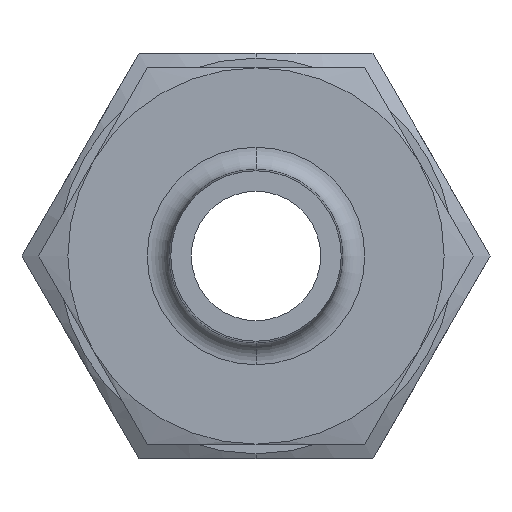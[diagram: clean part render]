
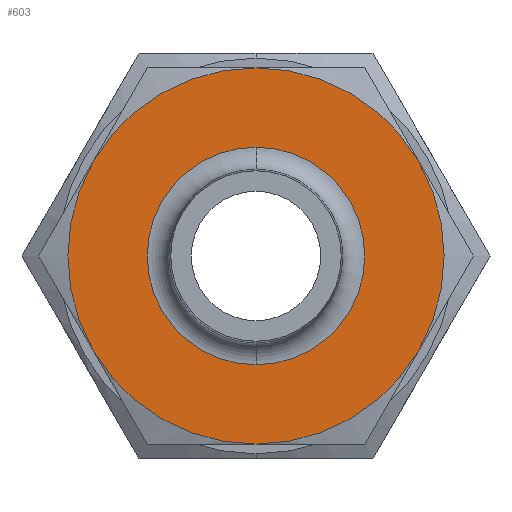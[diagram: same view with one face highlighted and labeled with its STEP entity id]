
A CAD part, left-side view. The second image highlights one B-rep face of the part: STEP entity #603.
In plain terms, the highlighted planar face has unit normal (-1, 0, 0).
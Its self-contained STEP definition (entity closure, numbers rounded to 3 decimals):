
#167 = VERTEX_POINT ( 'NONE', #810 ) ;
#182 = VERTEX_POINT ( 'NONE', #913 ) ;
#194 = VERTEX_POINT ( 'NONE', #1238 ) ;
#220 = EDGE_CURVE ( 'NONE', #221, #222, #1206, .T. ) ;
#221 = VERTEX_POINT ( 'NONE', #1197 ) ;
#222 = VERTEX_POINT ( 'NONE', #1196 ) ;
#262 = ORIENTED_EDGE ( 'NONE', *, *, #263, .F. ) ;
#263 = EDGE_CURVE ( 'NONE', #194, #593, #1033, .T. ) ;
#264 = ORIENTED_EDGE ( 'NONE', *, *, #265, .F. ) ;
#265 = EDGE_CURVE ( 'NONE', #182, #194, #1066, .T. ) ;
#266 = ORIENTED_EDGE ( 'NONE', *, *, #267, .F. ) ;
#267 = EDGE_CURVE ( 'NONE', #318, #182, #1062, .T. ) ;
#268 = ORIENTED_EDGE ( 'NONE', *, *, #269, .F. ) ;
#269 = EDGE_CURVE ( 'NONE', #462, #318, #1085, .T. ) ;
#270 = ORIENTED_EDGE ( 'NONE', *, *, #271, .T. ) ;
#271 = EDGE_CURVE ( 'NONE', #462, #167, #1080, .T. ) ;
#318 = VERTEX_POINT ( 'NONE', #1458 ) ;
#462 = VERTEX_POINT ( 'NONE', #1681 ) ;
#539 = EDGE_LOOP ( 'NONE', ( #262, #264, #266, #268, #270, #607 ) ) ;
#543 = ORIENTED_EDGE ( 'NONE', *, *, #220, .T. ) ;
#593 = VERTEX_POINT ( 'NONE', #1532 ) ;
#603 = ADVANCED_FACE ( 'NONE', ( #1856, #1767 ), #1857, .F. ) ;
#604 = EDGE_LOOP ( 'NONE', ( #605, #543 ) ) ;
#605 = ORIENTED_EDGE ( 'NONE', *, *, #606, .T. ) ;
#606 = EDGE_CURVE ( 'NONE', #222, #221, #1755, .T. ) ;
#607 = ORIENTED_EDGE ( 'NONE', *, *, #608, .F. ) ;
#608 = EDGE_CURVE ( 'NONE', #593, #167, #1750, .T. ) ;
#810 = CARTESIAN_POINT ( 'NONE',  ( 0., 8.937, 5.16 ) ) ;
#913 = CARTESIAN_POINT ( 'NONE',  ( 0., -8.937, -5.16 ) ) ;
#1029 = DIRECTION ( 'NONE',  ( 0., 0., -1. ) ) ;
#1030 = DIRECTION ( 'NONE',  ( 1., 0., 0. ) ) ;
#1031 = CARTESIAN_POINT ( 'NONE',  ( 0., 0., 0. ) ) ;
#1032 = AXIS2_PLACEMENT_3D ( 'NONE', #1031, #1030, #1029 ) ;
#1033 = CIRCLE ( 'NONE', #1032, 10.32 ) ;
#1034 = CARTESIAN_POINT ( 'NONE',  ( 0., 0., 0. ) ) ;
#1058 = DIRECTION ( 'NONE',  ( 0., 0., -1. ) ) ;
#1059 = DIRECTION ( 'NONE',  ( 1., 0., 0. ) ) ;
#1060 = CARTESIAN_POINT ( 'NONE',  ( 0., 0., 0. ) ) ;
#1061 = AXIS2_PLACEMENT_3D ( 'NONE', #1060, #1059, #1058 ) ;
#1062 = CIRCLE ( 'NONE', #1061, 10.32 ) ;
#1063 = DIRECTION ( 'NONE',  ( 0., 0., -1. ) ) ;
#1064 = DIRECTION ( 'NONE',  ( 1., 0., 0. ) ) ;
#1065 = AXIS2_PLACEMENT_3D ( 'NONE', #1034, #1064, #1063 ) ;
#1066 = CIRCLE ( 'NONE', #1065, 10.32 ) ;
#1076 = DIRECTION ( 'NONE',  ( 0., 0., 1. ) ) ;
#1077 = DIRECTION ( 'NONE',  ( -1., 0., 0. ) ) ;
#1078 = CARTESIAN_POINT ( 'NONE',  ( 0., 0., 0. ) ) ;
#1079 = AXIS2_PLACEMENT_3D ( 'NONE', #1078, #1077, #1076 ) ;
#1080 = CIRCLE ( 'NONE', #1079, 10.32 ) ;
#1081 = DIRECTION ( 'NONE',  ( 0., 0., -1. ) ) ;
#1082 = DIRECTION ( 'NONE',  ( 1., 0., 0. ) ) ;
#1083 = CARTESIAN_POINT ( 'NONE',  ( 0., 0., 0. ) ) ;
#1084 = AXIS2_PLACEMENT_3D ( 'NONE', #1083, #1082, #1081 ) ;
#1085 = CIRCLE ( 'NONE', #1084, 10.32 ) ;
#1196 = CARTESIAN_POINT ( 'NONE',  ( 0., 0., -5.965 ) ) ;
#1197 = CARTESIAN_POINT ( 'NONE',  ( 0., 0., 5.965 ) ) ;
#1198 = DIRECTION ( 'NONE',  ( 0., 0., -1. ) ) ;
#1199 = DIRECTION ( 'NONE',  ( 1., 0., 0. ) ) ;
#1200 = CARTESIAN_POINT ( 'NONE',  ( 0., 0., 0. ) ) ;
#1201 = AXIS2_PLACEMENT_3D ( 'NONE', #1200, #1199, #1198 ) ;
#1206 = CIRCLE ( 'NONE', #1201, 5.965 ) ;
#1238 = CARTESIAN_POINT ( 'NONE',  ( 0., 0., -10.32 ) ) ;
#1458 = CARTESIAN_POINT ( 'NONE',  ( 0., -8.937, 5.16 ) ) ;
#1532 = CARTESIAN_POINT ( 'NONE',  ( 0., 8.937, -5.16 ) ) ;
#1681 = CARTESIAN_POINT ( 'NONE',  ( 0., 0., 10.32 ) ) ;
#1747 = DIRECTION ( 'NONE',  ( 0., 0., -1. ) ) ;
#1748 = DIRECTION ( 'NONE',  ( 1., 0., 0. ) ) ;
#1749 = AXIS2_PLACEMENT_3D ( 'NONE', #1756, #1748, #1747 ) ;
#1750 = CIRCLE ( 'NONE', #1749, 10.32 ) ;
#1751 = DIRECTION ( 'NONE',  ( 0., 0., -1. ) ) ;
#1752 = DIRECTION ( 'NONE',  ( 1., 0., 0. ) ) ;
#1753 = CARTESIAN_POINT ( 'NONE',  ( 0., 0., 0. ) ) ;
#1754 = AXIS2_PLACEMENT_3D ( 'NONE', #1753, #1752, #1751 ) ;
#1755 = CIRCLE ( 'NONE', #1754, 5.965 ) ;
#1756 = CARTESIAN_POINT ( 'NONE',  ( 0., 0., 0. ) ) ;
#1757 = DIRECTION ( 'NONE',  ( 0., 0., -1. ) ) ;
#1758 = DIRECTION ( 'NONE',  ( 1., 0., 0. ) ) ;
#1759 = CARTESIAN_POINT ( 'NONE',  ( 0., 11.917, 0. ) ) ;
#1760 = AXIS2_PLACEMENT_3D ( 'NONE', #1759, #1758, #1757 ) ;
#1767 = FACE_OUTER_BOUND ( 'NONE', #539, .T. ) ;
#1856 = FACE_BOUND ( 'NONE', #604, .T. ) ;
#1857 = PLANE ( 'NONE',  #1760 ) ;
